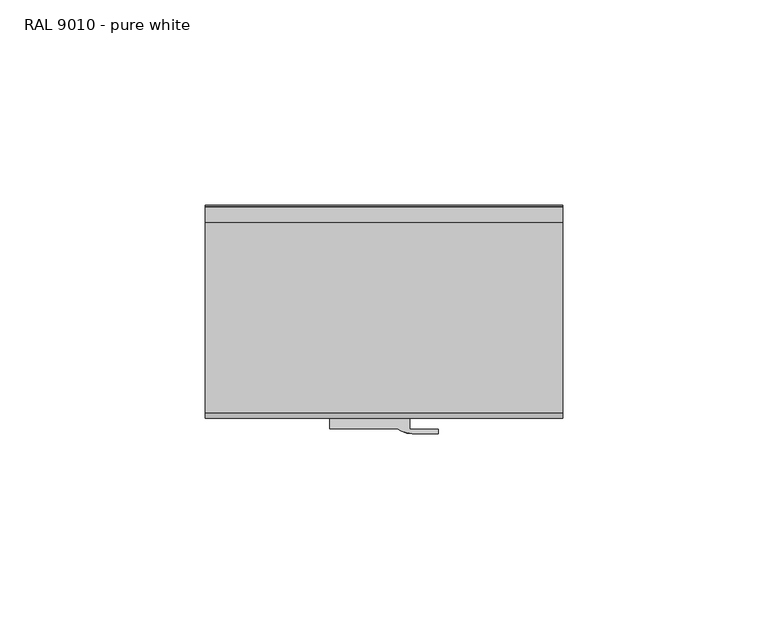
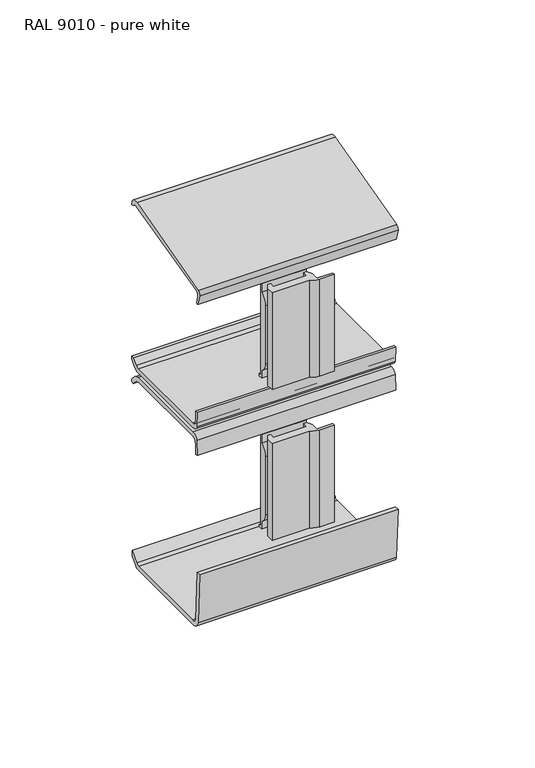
"""IFC4 building model written with IfcOpenShell, lengths in millimetres: cable carrier fitting geometry, Electrical_Installations_Hager_GBD-Joint-Cover-And-Coupling-Piece-Curved : RAL 9010 - pure white."""

from ifc_helpers import new_model, si_unit, point, frame, frame_2d, origin, place, context, project, spatial, polyline, circle_curve, trimmed, segment, composite_curve, outline, extrude, source, transform, mapped, element, save


def ral_9010_pure_white_83b22ab2(model_context):
    return source(origin(), model_context, "Body", "SweptSolid", [
        extrude(outline(composite_curve([segment(polyline([(-20.1187658, -8.621875), (-21.3187658, -8.621875), (-21.3187658, -50.657314), (-20.3521342, -50.657314), (-20.3521342, -51.6625), (-22.1187658, -51.6625), (-22.1187658, -47.9458733)]), True, "CONTINUOUS"), segment(trimmed(circle_curve(frame_2d((-19.6446803, -43.4515165)), 5.1303355), [point((-22.1187658, -47.9458733))], [point((-24.7750158, -43.4515165))], False, "CARTESIAN"), True, "CONTINUOUS"), segment(polyline([(-24.7750158, -43.4515165), (-24.7750158, -16.3663694)]), True, "CONTINUOUS"), segment(trimmed(circle_curve(frame_2d((-18.6463681, -16.8155883)), 6.1450891), [point((-24.7750158, -16.3663694))], [point((-22.1187658, -11.7456204))], False, "CARTESIAN"), True, "CONTINUOUS"), segment(polyline([(-22.1187658, -11.7456204), (-22.1187658, -7.821875), (-20.1187658, -7.821875), (-20.1187658, -8.621875)]), True, "CONTINUOUS")], self_intersect=False)), frame((-0.7125, 0.0, 0.0), z_axis=(1.0, 0.0, 0.0), x_axis=(0.0, 1.0, 0.0)), (0.0, 0.0, 1.0), 19.5),
        extrude(outline(composite_curve([segment(polyline([(-0.7125, -29.9750158), (-0.7125, -26.6750158), (0.5576706, -24.4750158), (1.791584, -24.4750158), (1.791584, -26.6750158), (16.234474, -26.6750158), (16.234474, -24.4750158), (17.5173294, -24.4750158), (18.7875, -26.6750158), (18.7875, -30.1750158), (25.7875, -30.1750158), (25.7875, -31.1750158), (19.3875, -31.1750158)]), True, "CONTINUOUS"), segment(trimmed(circle_curve(frame_2d((19.3875, -24.8750158)), 6.3), [point((19.3875, -31.1750158))], [point((15.6888516, -29.9750158))], False, "CARTESIAN"), True, "CONTINUOUS"), segment(polyline([(15.6888516, -29.9750158), (-0.7125, -29.9750158)]), True, "CONTINUOUS")], self_intersect=False)), frame((0.0, 0.0, -52.2), z_axis=(0.0, 0.0, 1.0), x_axis=(1.0, 0.0, 0.0)), (0.0, 0.0, 1.0), 45.0),
        extrude(outline(composite_curve([segment(polyline([(-20.1187658, 61.378125), (-21.3187658, 61.378125), (-21.3187658, 19.342686), (-20.3521342, 19.342686), (-20.3521342, 18.3375), (-22.1187658, 18.3375), (-22.1187658, 22.0541267)]), True, "CONTINUOUS"), segment(trimmed(circle_curve(frame_2d((-19.6446803, 26.5484835)), 5.1303355), [point((-22.1187658, 22.0541267))], [point((-24.7750158, 26.5484835))], False, "CARTESIAN"), True, "CONTINUOUS"), segment(polyline([(-24.7750158, 26.5484835), (-24.7750158, 53.6336306)]), True, "CONTINUOUS"), segment(trimmed(circle_curve(frame_2d((-18.6463681, 53.1844117)), 6.1450891), [point((-24.7750158, 53.6336306))], [point((-22.1187658, 58.2543796))], False, "CARTESIAN"), True, "CONTINUOUS"), segment(polyline([(-22.1187658, 58.2543796), (-22.1187658, 62.178125), (-20.1187658, 62.178125), (-20.1187658, 61.378125)]), True, "CONTINUOUS")], self_intersect=False)), frame((-0.7125, 0.0, 0.0), z_axis=(1.0, 0.0, 0.0), x_axis=(0.0, 1.0, 0.0)), (0.0, 0.0, 1.0), 19.5),
        extrude(outline(composite_curve([segment(polyline([(-0.7125, -29.9750158), (-0.7125, -26.6750158), (0.5576706, -24.4750158), (1.791584, -24.4750158), (1.791584, -26.6750158), (16.234474, -26.6750158), (16.234474, -24.4750158), (17.5173294, -24.4750158), (18.7875, -26.6750158), (18.7875, -30.1750158), (25.7875, -30.1750158), (25.7875, -31.1750158), (19.3875, -31.1750158)]), True, "CONTINUOUS"), segment(trimmed(circle_curve(frame_2d((19.3875, -24.8750158)), 6.3), [point((19.3875, -31.1750158))], [point((15.6888516, -29.9750158))], False, "CARTESIAN"), True, "CONTINUOUS"), segment(polyline([(15.6888516, -29.9750158), (-0.7125, -29.9750158)]), True, "CONTINUOUS")], self_intersect=False)), frame((0.0, 0.0, 17.8), z_axis=(0.0, 0.0, 1.0), x_axis=(1.0, 0.0, 0.0)), (0.0, 0.0, 1.0), 45.0),
        extrude(outline(composite_curve([segment(trimmed(circle_curve(frame_2d((-23.9454446, 69.5283297)), 2.0093664), [point((-24.4315543, 71.4780093))], [point((-25.8951242, 69.04222))], True, "CARTESIAN"), True, "CONTINUOUS"), segment(polyline([(-25.8951242, 69.04222), (-25.0637994, 65.7079583), (-26.0482065, 65.462518), (-27.3580461, 70.3509061)]), True, "CONTINUOUS"), segment(trimmed(circle_curve(frame_2d((-25.8903053, 70.7441861)), 1.5195171), [point((-27.3580461, 70.3509061))], [point((-26.2835853, 72.2119269))], False, "CARTESIAN"), True, "CONTINUOUS"), segment(polyline([(-26.2835853, 72.2119269), (20.1982161, 84.6666881)]), True, "CONTINUOUS"), segment(trimmed(circle_curve(frame_2d((21.1465193, 81.1275726)), 3.663962), [point((20.1982161, 84.6666881))], [point((23.9117465, 83.5313479))], False, "CARTESIAN"), True, "CONTINUOUS"), segment(polyline([(23.9117465, 83.5313479), (24.0819857, 81.5855052), (23.1232907, 81.5855052)]), True, "CONTINUOUS"), segment(trimmed(circle_curve(frame_2d((21.1994963, 80.6507727)), 2.1388571), [point((23.1232907, 81.5855052))], [point((20.6820599, 82.7260966))], True, "CARTESIAN"), True, "CONTINUOUS"), segment(polyline([(20.6820599, 82.7260966), (-24.4315543, 71.4780093)]), True, "CONTINUOUS")], self_intersect=False)), frame((-31.0, 0.0, 0.0), z_axis=(1.0, 0.0, 0.0), x_axis=(0.0, 1.0, 0.0)), (0.0, 0.0, 1.0), 87.0430563),
        extrude(outline(composite_curve([segment(polyline([(-24.5018, 15.1305613), (-24.2401549, 10.1380763)]), True, "CONTINUOUS"), segment(trimmed(circle_curve(frame_2d((-22.13782, 10.248255)), 2.10522), [point((-24.2401549, 10.1380763))], [point((-22.13782, 8.1430349))], True, "CARTESIAN"), True, "CONTINUOUS"), segment(polyline([(-22.13782, 8.1430349), (19.2380445, 8.1430349)]), True, "CONTINUOUS"), segment(trimmed(circle_curve(frame_2d((19.2380445, 10.1693612)), 2.0263263), [point((19.2380445, 8.1430349))], [point((20.7903005, 8.8668638))], True, "CARTESIAN"), True, "CONTINUOUS"), segment(polyline([(20.7903005, 8.8668638), (22.9786037, 11.055167), (24.4017805, 11.055167), (24.4017805, 9.792273), (21.7956399, 7.1861324)]), True, "CONTINUOUS"), segment(trimmed(circle_curve(frame_2d((19.1631248, 9.8186475)), 3.7229385), [point((21.7956399, 7.1861324))], [point((19.4876003, 6.1098758))], False, "CARTESIAN"), True, "CONTINUOUS"), segment(polyline([(19.4876003, 6.1098758), (-22.223862, 6.1098758)]), True, "CONTINUOUS"), segment(trimmed(circle_curve(frame_2d((-22.223862, 9.5032213)), 3.3933455), [point((-22.223862, 6.1098758))], [point((-25.3326699, 8.1430349))], False, "CARTESIAN"), True, "CONTINUOUS"), segment(polyline([(-25.3326699, 8.1430349), (-25.5747161, 15.0743322), (-24.5018, 15.1305613)]), True, "CONTINUOUS")], self_intersect=False)), frame((-31.0, 0.0, 0.0), z_axis=(1.0, 0.0, 0.0), x_axis=(0.0, 1.0, 0.0)), (0.0, 0.0, 1.0), 87.0430563),
        extrude(outline(composite_curve([segment(polyline([(-24.5018, -4.9724703), (-25.5747161, -4.9162412), (-25.3326699, 2.0150561)]), True, "CONTINUOUS"), segment(trimmed(circle_curve(frame_2d((-22.223862, 0.6548697)), 3.3933455), [point((-25.3326699, 2.0150561))], [point((-22.223862, 4.0482152))], False, "CARTESIAN"), True, "CONTINUOUS"), segment(polyline([(-22.223862, 4.0482152), (19.4876003, 4.0482152)]), True, "CONTINUOUS"), segment(trimmed(circle_curve(frame_2d((19.1631248, 0.3394435)), 3.7229385), [point((19.4876003, 4.0482152))], [point((21.7956399, 2.9719586))], False, "CARTESIAN"), True, "CONTINUOUS"), segment(polyline([(21.7956399, 2.9719586), (24.4017805, 0.365818), (24.4017805, -0.897076), (22.9786037, -0.897076), (20.7903005, 1.2912272)]), True, "CONTINUOUS"), segment(trimmed(circle_curve(frame_2d((19.2380445, -0.0112702)), 2.0263263), [point((20.7903005, 1.2912272))], [point((19.2380445, 2.0150561))], True, "CARTESIAN"), True, "CONTINUOUS"), segment(polyline([(19.2380445, 2.0150561), (-22.13782, 2.0150561)]), True, "CONTINUOUS"), segment(trimmed(circle_curve(frame_2d((-22.13782, -0.090164)), 2.10522), [point((-22.13782, 2.0150561))], [point((-24.2401549, 0.0200147))], True, "CARTESIAN"), True, "CONTINUOUS"), segment(polyline([(-24.2401549, 0.0200147), (-24.5018, -4.9724703)]), True, "CONTINUOUS")], self_intersect=False)), frame((-31.0, 0.0, 0.0), z_axis=(1.0, 0.0, 0.0), x_axis=(0.0, 1.0, 0.0)), (0.0, 0.0, 1.0), 87.0430563),
        extrude(outline(composite_curve([segment(trimmed(circle_curve(frame_2d((-22.6918821, -81.9224108)), 1.5144864), [point((-24.2042929, -82.0016729))], [point((-22.0043196, -83.2718281))], True, "CARTESIAN"), True, "CONTINUOUS"), segment(polyline([(-22.0043196, -83.2718281), (18.9359168, -83.2718281)]), True, "CONTINUOUS"), segment(trimmed(circle_curve(frame_2d((18.9359168, -81.2455018)), 2.0263263), [point((18.9359168, -83.2718281))], [point((20.4881728, -82.5479992))], True, "CARTESIAN"), True, "CONTINUOUS"), segment(polyline([(20.4881728, -82.5479992), (23.9643439, -79.0718281), (23.9643439, -81.4631857), (21.3988224, -84.4144806)]), True, "CONTINUOUS"), segment(trimmed(circle_curve(frame_2d((18.9667446, -81.3969761)), 3.8756077), [point((21.3988224, -84.4144806))], [point((19.0432794, -85.2718281))], False, "CARTESIAN"), True, "CONTINUOUS"), segment(polyline([(19.0432794, -85.2718281), (-22.2397978, -85.2718281)]), True, "CONTINUOUS"), segment(trimmed(circle_curve(frame_2d((-22.2397978, -81.211155)), 4.0606731), [point((-22.2397978, -85.2718281))], [point((-26.1798516, -82.1935207))], False, "CARTESIAN"), True, "CONTINUOUS"), segment(polyline([(-26.1798516, -82.1935207), (-27.3799013, -59.2952084), (-25.3942883, -59.2952084), (-24.2042929, -82.0016729)]), True, "CONTINUOUS")], self_intersect=False)), frame((-31.0, 0.0, 0.0), z_axis=(1.0, 0.0, 0.0), x_axis=(0.0, 1.0, 0.0)), (0.0, 0.0, 1.0), 87.0430563),
    ])


if __name__ == "__main__":
    model = new_model("IFC4")
    model_context = context("Model", 3, world=origin())
    ifc_project = project(units=[si_unit("LENGTHUNIT", "METRE", prefix="MILLI")], contexts=[model_context])
    site = spatial("IfcSite", under=ifc_project)
    building = spatial("IfcBuilding", under=site)
    placement = place(None, origin())
    ral_9010_pure_white_shape = ral_9010_pure_white_83b22ab2(model_context)
    element("IfcCableCarrierFitting", 1, ObjectType="Electrical_Installations_Hager_GBD-Joint-Cover-And-Coupling-Piece-Curved : RAL 9010 - pure white", at=placement, inside=building, context=model_context, shape_type="MappedRepresentation", body=[
        mapped(ral_9010_pure_white_shape, transform((0.0, 0.0, 0.0), x_axis=(1.0, 0.0, 0.0), y_axis=(0.0, 1.0, 0.0), z_axis=(0.0, 0.0, 1.0))),
    ])
    save(model, "model.ifc")
